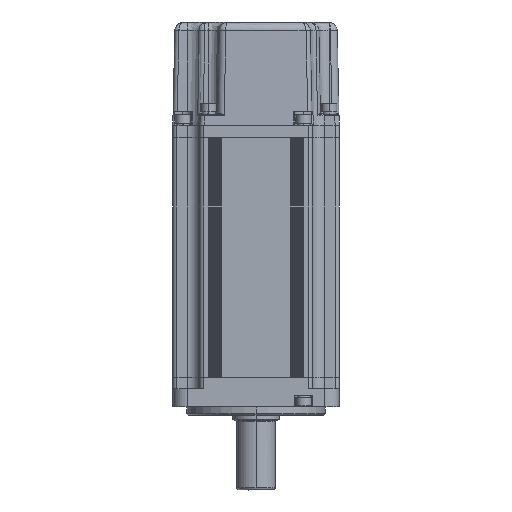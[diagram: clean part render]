
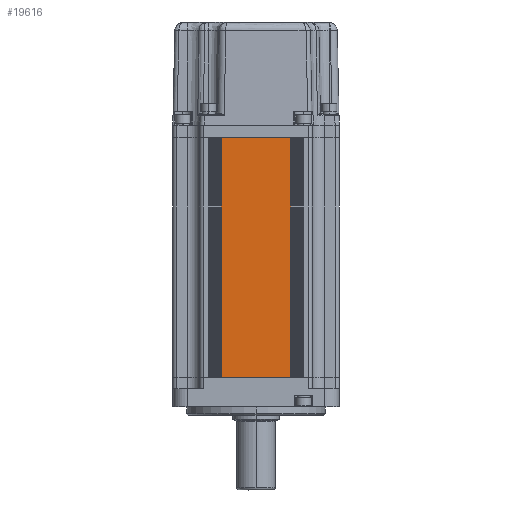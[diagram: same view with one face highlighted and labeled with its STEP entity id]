
A CAD part, left-side view. The second image highlights one B-rep face of the part: STEP entity #19616.
In plain terms, the highlighted planar face has unit normal (-1, 0, 0) as drawn and (1, 0, 0) by its records, which use the part's own axes.
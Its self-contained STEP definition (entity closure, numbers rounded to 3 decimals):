
#13010=DIRECTION('',(0.,1.,0.));
#13011=VECTOR('',#13010,25.);
#13012=CARTESIAN_POINT('',(30.,-12.5,0.));
#13013=LINE('',#13012,#13011);
#14312=DIRECTION('',(0.,1.,0.));
#14313=VECTOR('',#14312,25.);
#14314=CARTESIAN_POINT('',(30.,-12.5,86.5));
#14315=LINE('',#14314,#14313);
#15355=DIRECTION('',(0.,0.,1.));
#15356=VECTOR('',#15355,86.5);
#15357=CARTESIAN_POINT('',(30.,12.5,0.));
#15358=LINE('',#15357,#15356);
#15359=DIRECTION('',(0.,0.,1.));
#15360=VECTOR('',#15359,86.5);
#15361=CARTESIAN_POINT('',(30.,-12.5,0.));
#15362=LINE('',#15361,#15360);
#16515=CARTESIAN_POINT('',(30.,-12.5,0.));
#16517=VERTEX_POINT('',#16515);
#16579=CARTESIAN_POINT('',(30.,-12.5,86.5));
#16581=VERTEX_POINT('',#16579);
#16871=CARTESIAN_POINT('',(30.,12.5,0.));
#16872=VERTEX_POINT('',#16871);
#16903=CARTESIAN_POINT('',(30.,12.5,86.5));
#16904=VERTEX_POINT('',#16903);
#19603=CARTESIAN_POINT('',(30.,-30.,0.));
#19604=DIRECTION('',(1.,0.,0.));
#19605=DIRECTION('',(0.,1.,0.));
#19606=AXIS2_PLACEMENT_3D('',#19603,#19604,#19605);
#19607=PLANE('',#19606);
#19609=ORIENTED_EDGE('',*,*,#19608,.F.);
#19610=ORIENTED_EDGE('',*,*,#17238,.F.);
#19612=ORIENTED_EDGE('',*,*,#19611,.T.);
#19613=ORIENTED_EDGE('',*,*,#18326,.T.);
#19614=EDGE_LOOP('',(#19609,#19610,#19612,#19613));
#19615=FACE_OUTER_BOUND('',#19614,.F.);
#17238=EDGE_CURVE('',#16517,#16872,#13013,.T.);
#18326=EDGE_CURVE('',#16581,#16904,#14315,.T.);
#19608=EDGE_CURVE('',#16872,#16904,#15358,.T.);
#19611=EDGE_CURVE('',#16517,#16581,#15362,.T.);
#19616=ADVANCED_FACE('',(#19615),#19607,.T.);
